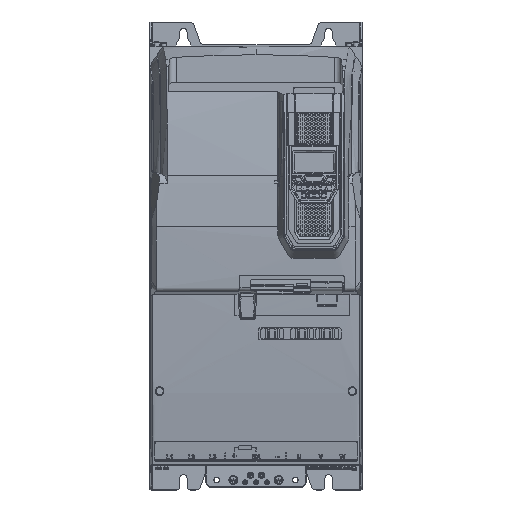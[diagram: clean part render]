
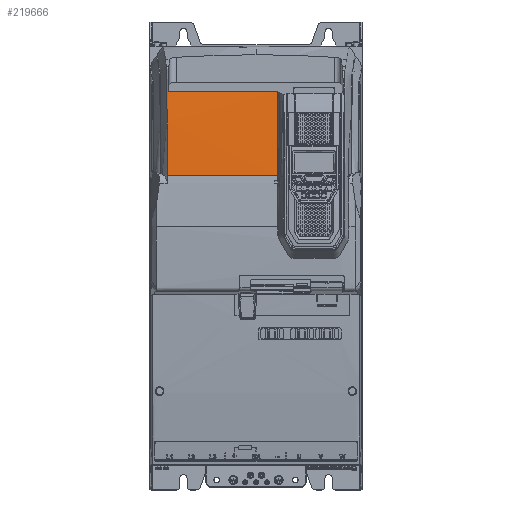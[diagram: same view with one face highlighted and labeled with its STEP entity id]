
A CAD part, top view. The second image highlights one B-rep face of the part: STEP entity #219666.
In plain terms, the highlighted cylindrical face has radius 1200 mm (diameter 2400 mm), a partial arc.
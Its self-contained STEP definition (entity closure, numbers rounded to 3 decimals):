
#8065 = LINE ( 'NONE', #164995, #279990 ) ;
#11376 = DIRECTION ( 'NONE',  ( 1., 0., 0. ) ) ;
#35761 = ORIENTED_EDGE ( 'NONE', *, *, #81507, .T. ) ;
#38576 = CARTESIAN_POINT ( 'NONE',  ( 34.079, 211.931, 291.128 ) ) ;
#48135 = CARTESIAN_POINT ( 'NONE',  ( -138.535, 289.42, 277.16 ) ) ;
#49885 = EDGE_CURVE ( 'NONE', #247273, #262893, #181045, .T. ) ;
#61947 = CARTESIAN_POINT ( 'NONE',  ( -137.733, 180.025, 295.526 ) ) ;
#64193 = CARTESIAN_POINT ( 'NONE',  ( 34.079, 124.651, 298.985 ) ) ;
#65852 = CARTESIAN_POINT ( 'NONE',  ( 34.079, 255.086, 283.637 ) ) ;
#66476 = VERTEX_POINT ( 'NONE', #152182 ) ;
#69287 = ORIENTED_EDGE ( 'NONE', *, *, #181808, .T. ) ;
#71607 = CARTESIAN_POINT ( 'NONE',  ( -135.77, 266.562, 281.645 ) ) ;
#81507 = EDGE_CURVE ( 'NONE', #243221, #66476, #281931, .T. ) ;
#94706 = AXIS2_PLACEMENT_3D ( 'NONE', #273990, #11376, #115450 ) ;
#100987 = CARTESIAN_POINT ( 'NONE',  ( -138.052, 235.055, 288.237 ) ) ;
#104282 = DIRECTION ( 'NONE',  ( 1., 0., 0. ) ) ;
#115450 = DIRECTION ( 'NONE',  ( 0., 0., -1. ) ) ;
#118208 = CARTESIAN_POINT ( 'NONE',  ( -137.582, 124.651, 298.985 ) ) ;
#119840 = CARTESIAN_POINT ( 'NONE',  ( 34.079, 255.086, 283.637 ) ) ;
#130690 = CARTESIAN_POINT ( 'NONE',  ( -135.535, 289.42, 277.16 ) ) ;
#140001 = ORIENTED_EDGE ( 'NONE', *, *, #177796, .F. ) ;
#141049 = FACE_OUTER_BOUND ( 'NONE', #161755, .T. ) ;
#142474 = VECTOR ( 'NONE', #104282, 1000. ) ;
#143242 = EDGE_CURVE ( 'NONE', #229704, #262893, #8065, .T. ) ;
#151771 = CARTESIAN_POINT ( 'NONE',  ( -135.875, 255.086, 283.637 ) ) ;
#152182 = CARTESIAN_POINT ( 'NONE',  ( -138.535, 289.42, 277.16 ) ) ;
#155499 = LINE ( 'NONE', #233902, #142474 ) ;
#161755 = EDGE_LOOP ( 'NONE', ( #255065, #69287, #35761, #140001, #292642, #168173 ) ) ;
#164995 = CARTESIAN_POINT ( 'NONE',  ( 0., 255.086, 283.637 ) ) ;
#168173 = ORIENTED_EDGE ( 'NONE', *, *, #49885, .T. ) ;
#168271 = CARTESIAN_POINT ( 'NONE',  ( 34.079, 168.366, 296.254 ) ) ;
#172212 = CARTESIAN_POINT ( 'NONE',  ( 34.079, 124.651, 298.985 ) ) ;
#174657 = DIRECTION ( 'NONE',  ( 1., 0., 0. ) ) ;
#177796 = EDGE_CURVE ( 'NONE', #313464, #66476, #291757, .T. ) ;
#181045 = B_SPLINE_CURVE_WITH_KNOTS ( 'NONE', 3,
 ( #64193, #168271, #38576, #65852 ),
 .UNSPECIFIED., .F., .F.,
 ( 4, 4 ),
 ( 0., 0.79 ),
 .UNSPECIFIED. ) ;
#181808 = EDGE_CURVE ( 'NONE', #229704, #243221, #278863, .T. ) ;
#198488 = CARTESIAN_POINT ( 'NONE',  ( 0., 289.42, 277.16 ) ) ;
#212301 = CARTESIAN_POINT ( 'NONE',  ( -135.875, 255.086, 283.637 ) ) ;
#219666 = ADVANCED_FACE ( 'NONE', ( #141049 ), #245026, .T. ) ;
#229704 = VERTEX_POINT ( 'NONE', #212301 ) ;
#233902 = CARTESIAN_POINT ( 'NONE',  ( 0., 124.651, 298.985 ) ) ;
#243221 = VERTEX_POINT ( 'NONE', #130690 ) ;
#245001 = CARTESIAN_POINT ( 'NONE',  ( -137.582, 124.651, 298.985 ) ) ;
#245026 = CYLINDRICAL_SURFACE ( 'NONE', #94706, 1200. ) ;
#247273 = VERTEX_POINT ( 'NONE', #172212 ) ;
#251650 = EDGE_CURVE ( 'NONE', #313464, #247273, #155499, .T. ) ;
#255065 = ORIENTED_EDGE ( 'NONE', *, *, #143242, .F. ) ;
#262893 = VERTEX_POINT ( 'NONE', #119840 ) ;
#273990 = CARTESIAN_POINT ( 'NONE',  ( 0., 49.844, -898.681 ) ) ;
#278863 =( BOUNDED_CURVE ( )  B_SPLINE_CURVE ( 3, ( #151771, #71607, #284686, #332552 ),
 .UNSPECIFIED., .F., .F. ) 
 B_SPLINE_CURVE_WITH_KNOTS ( ( 4, 4 ),
 ( 3.313, 3.343 ),
 .UNSPECIFIED. ) 
 CURVE ( )  GEOMETRIC_REPRESENTATION_ITEM ( )  RATIONAL_B_SPLINE_CURVE ( ( 1., 1., 1., 1. ) ) 
 REPRESENTATION_ITEM ( '' )  );
#279990 = VECTOR ( 'NONE', #174657, 1000. ) ;
#281931 = LINE ( 'NONE', #198488, #335086 ) ;
#284686 = CARTESIAN_POINT ( 'NONE',  ( -135.657, 278.007, 279.486 ) ) ;
#291757 = B_SPLINE_CURVE_WITH_KNOTS ( 'NONE', 3,
 ( #118208, #61947, #100987, #48135 ),
 .UNSPECIFIED., .F., .F.,
 ( 4, 4 ),
 ( 0., 1. ),
 .UNSPECIFIED. ) ;
#292642 = ORIENTED_EDGE ( 'NONE', *, *, #251650, .T. ) ;
#302486 = DIRECTION ( 'NONE',  ( -1., 0., 0. ) ) ;
#313464 = VERTEX_POINT ( 'NONE', #245001 ) ;
#332552 = CARTESIAN_POINT ( 'NONE',  ( -135.535, 289.42, 277.16 ) ) ;
#335086 = VECTOR ( 'NONE', #302486, 1000. ) ;
